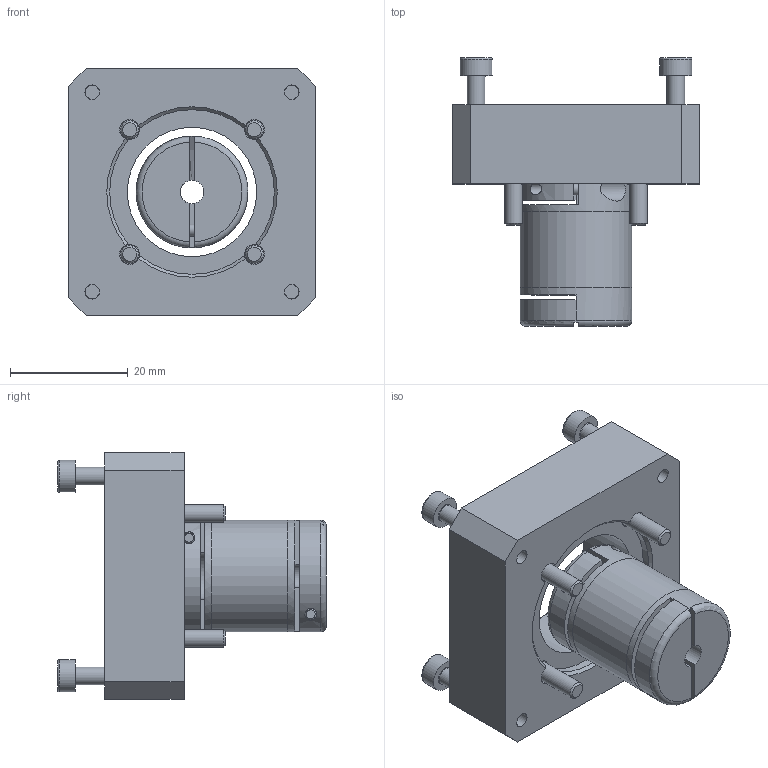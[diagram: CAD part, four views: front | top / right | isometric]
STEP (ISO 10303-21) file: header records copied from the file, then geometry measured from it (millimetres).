
FILE_DESCRIPTION(/* description */ (''),/* implementation_level */ '2;1');
FILE_NAME(/* name */ 'C:\ホームページ用データ\\X2\307E305A30533053306B\X0\\J08557.stp',/* time_stamp */ '2015-04-07T11:38:44+09:00',/* author */ ('jp4te01'),/* organization */ (''),/* preprocessor_version */ 'ST-DEVELOPER v15.2',/* originating_system */ 'Autodesk Inventor 2014',/* authorisation */ '');
FILE_SCHEMA (('AUTOMOTIVE_DESIGN { 1 0 10303 214 3 1 1 }'));
Length unit declared in the file: millimetre
Products named in the file (5): J09328; XGT2-19C-4x8; コピー版 JIS B 1176 - M3 x 15; コピー版 JIS B 1176 - M3 x 10; J08557
Bounding box: 42 x 45.7 x 42 mm (x, y, z)
Volume: 23805.4 mm3; surface area: 13067.3 mm2
Topology: 12 solids, 12 shells, 274 faces, 658 edges, 428 vertices
Faces by surface type: plane 166, cylinder 65, cone 25, torus 18
Full cylindrical faces by diameter (mm): 2 x4, 2.459 x4, 2.5 x2, 3 x8, 3.4 x4, 3.8 x2, 4 x1, 4.1 x2, 5.5 x8, 6 x4, 8 x1, 8.8 x1, 19 x3, 22 x1
Entity records: 5696 total; most frequent: CARTESIAN_POINT 1297, DIRECTION 870, ORIENTED_EDGE 786, EDGE_CURVE 393, AXIS2_PLACEMENT_3D 330, VERTEX_POINT 285, EDGE_LOOP 268, LINE 210
